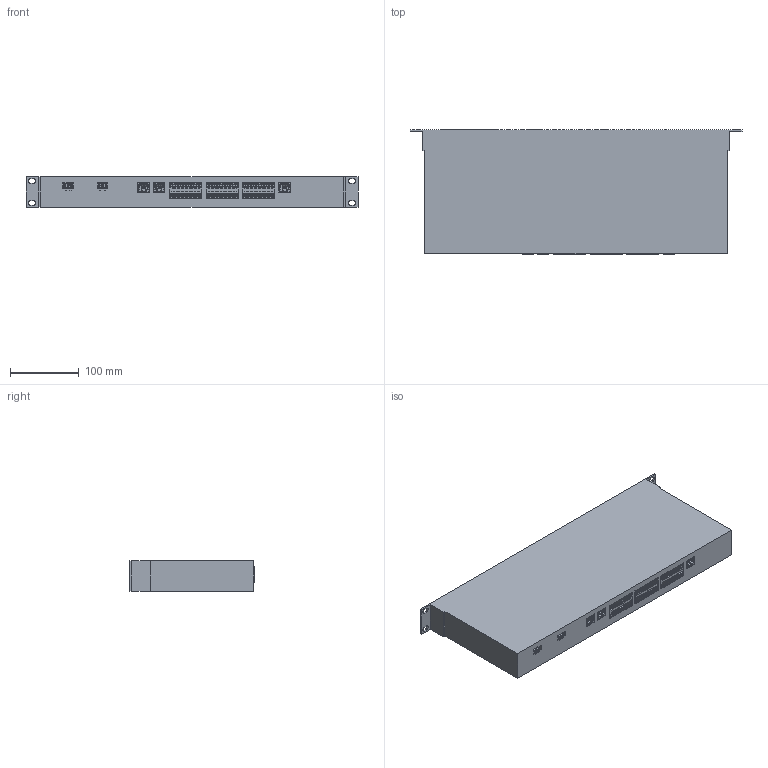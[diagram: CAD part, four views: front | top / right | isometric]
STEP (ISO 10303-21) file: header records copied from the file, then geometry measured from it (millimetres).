
FILE_DESCRIPTION(('TFLEX Exchange Step'),'2;1');
FILE_NAME('70210024_STEZ-GW-2ETH-24RS232_485_422.stp', '2025-09-24T13:10:35+03:00',('Agoncharova'),('Unknown organisation'),'TFLEX Exchange 2023.2','T-FLEX CAD','Unknown authorisation');
FILE_SCHEMA( ('AP203_CONFIGURATION_CONTROLLED_3D_DESIGN_OF_MECHANICAL_PARTS_AND_ASSEMBLIES_MIM_LF') );
Length unit declared in the file: millimetre
Products named in the file (1): Assembly
Bounding box: 482.6 x 180.5 x 44 mm (x, y, z)
Volume: 3465787.9 mm3; surface area: 262640.6 mm2
Topology: 1 solids, 11 shells, 5562 faces, 15631 edges, 10262 vertices
Faces by surface type: plane 4356, cylinder 876, bspline 270, sphere 56, cone 4
Full cylindrical faces by diameter (mm): 1.3 x6, 2 x1, 2.05 x1, 3 x64, 3.1 x56, 4.5 x1, 8 x4, 8.5 x4
Entity records: 190957 total; most frequent: CARTESIAN_POINT 47633, ORIENTED_EDGE 31150, DIRECTION 27292, EDGE_CURVE 15575, VECTOR 12790, LINE 12790, VERTEX_POINT 10262, AXIS2_PLACEMENT_3D 7251
